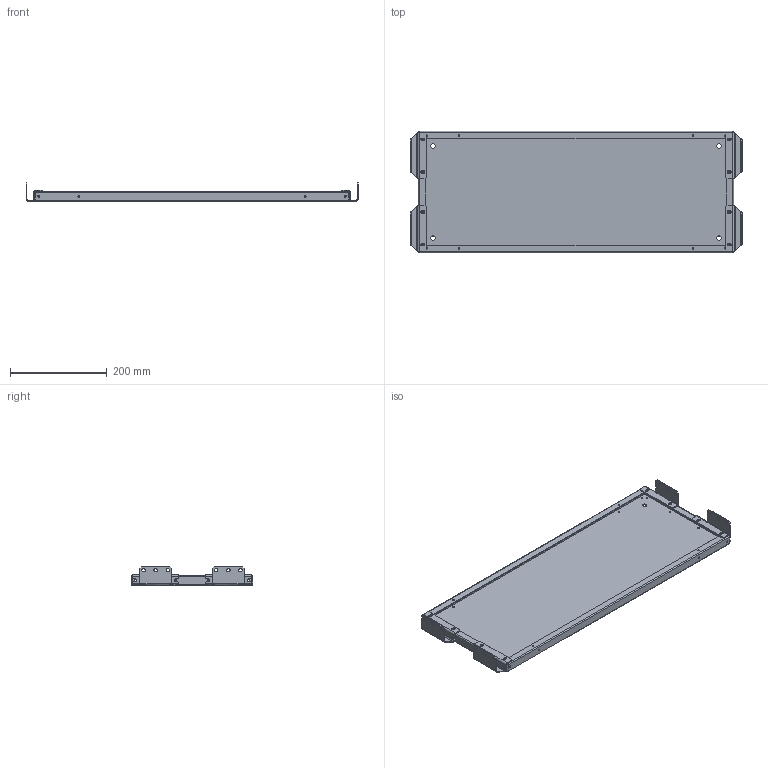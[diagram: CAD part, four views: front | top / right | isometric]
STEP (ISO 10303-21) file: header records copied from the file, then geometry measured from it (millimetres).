
FILE_DESCRIPTION (( 'STEP AP203' ), '1' );
FILE_NAME ('MP 65.25 M Ïàíåëü ìîíòàæíàÿ ñåêöèîííàÿ.STEP', '2013-01-09T13:31:18', ( 'System' ), ( '' ), 'SwSTEP 2.0', 'SolidWorks 2012', '' );
FILE_SCHEMA (( 'CONFIG_CONTROL_DESIGN' ));
Length unit declared in the file: millimetre
Products named in the file (1): MP 65.25 M Ïàíåëü ìîíòàæíàÿ ñåêöèîííàÿ
Bounding box: 685 x 250 x 37.75 mm (x, y, z)
Volume: 482788.6 mm3; surface area: 491290.9 mm2
Topology: 5 solids, 5 shells, 388 faces, 1016 edges, 632 vertices
Faces by surface type: cylinder 196, plane 168, bspline 16, sphere 8
Entity records: 12713 total; most frequent: CARTESIAN_POINT 2749, DIRECTION 2050, ORIENTED_EDGE 2016, EDGE_CURVE 1008, AXIS2_PLACEMENT_3D 733, VERTEX_POINT 632, LINE 584, VECTOR 584
